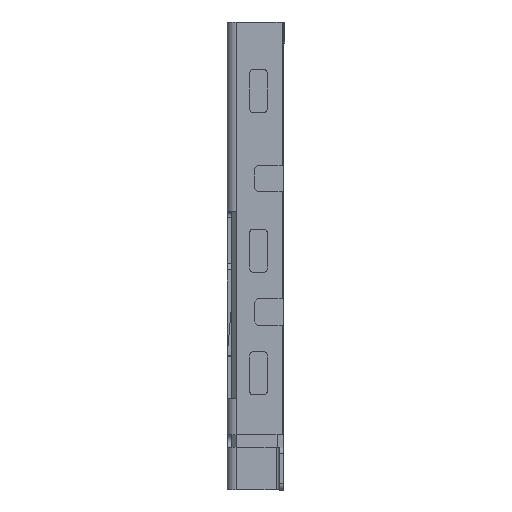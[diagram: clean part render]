
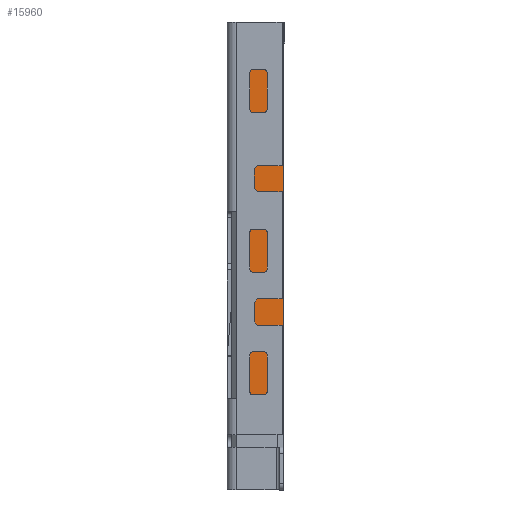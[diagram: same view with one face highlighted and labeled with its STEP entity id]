
A CAD part, left-side view. The second image highlights one B-rep face of the part: STEP entity #15960.
In plain terms, the highlighted planar face has unit normal (-1, 0, 0).
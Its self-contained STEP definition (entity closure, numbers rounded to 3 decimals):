
#52 = EDGE_CURVE ( 'NONE', #10962, #14479, #12126, .T. ) ;
#835 = PLANE ( 'NONE',  #4417 ) ;
#932 = CARTESIAN_POINT ( 'NONE',  ( -6.875, 0.2, -5.825 ) ) ;
#1551 = EDGE_CURVE ( 'NONE', #27229, #25503, #9286, .T. ) ;
#1668 = CARTESIAN_POINT ( 'NONE',  ( -6.875, 1.55, -5.825 ) ) ;
#1908 = FACE_OUTER_BOUND ( 'NONE', #6817, .T. ) ;
#2243 = DIRECTION ( 'NONE',  ( 0., 1., 0. ) ) ;
#2330 = EDGE_CURVE ( 'NONE', #25503, #14479, #22000, .T. ) ;
#3203 = EDGE_CURVE ( 'NONE', #20476, #10962, #4421, .T. ) ;
#4227 = ORIENTED_EDGE ( 'NONE', *, *, #3203, .F. ) ;
#4261 = CARTESIAN_POINT ( 'NONE',  ( -6.875, 1.55, 7.625 ) ) ;
#4417 = AXIS2_PLACEMENT_3D ( 'NONE', #932, #23637, #25916 ) ;
#4421 = LINE ( 'NONE', #18147, #28541 ) ;
#5359 = EDGE_CURVE ( 'NONE', #27229, #8840, #13848, .T. ) ;
#6166 = CARTESIAN_POINT ( 'NONE',  ( -6.875, 0.2, -5.825 ) ) ;
#6817 = EDGE_LOOP ( 'NONE', ( #13791, #15389, #4227, #16029, #12164, #27153 ) ) ;
#8840 = VERTEX_POINT ( 'NONE', #19040 ) ;
#9286 = LINE ( 'NONE', #27070, #20298 ) ;
#9314 = CARTESIAN_POINT ( 'NONE',  ( -6.875, 0.2, -5.575 ) ) ;
#10702 = VECTOR ( 'NONE', #20230, 1000. ) ;
#10962 = VERTEX_POINT ( 'NONE', #9314 ) ;
#12126 = LINE ( 'NONE', #29153, #10702 ) ;
#12164 = ORIENTED_EDGE ( 'NONE', *, *, #5359, .F. ) ;
#13686 = VECTOR ( 'NONE', #24794, 1000. ) ;
#13791 = ORIENTED_EDGE ( 'NONE', *, *, #2330, .T. ) ;
#13848 = LINE ( 'NONE', #26156, #23083 ) ;
#14479 = VERTEX_POINT ( 'NONE', #18952 ) ;
#15389 = ORIENTED_EDGE ( 'NONE', *, *, #52, .F. ) ;
#15849 = DIRECTION ( 'NONE',  ( 0., 0., -1. ) ) ;
#15960 = ADVANCED_FACE ( 'NONE', ( #1908 ), #835, .F. ) ;
#16029 = ORIENTED_EDGE ( 'NONE', *, *, #18918, .F. ) ;
#18147 = CARTESIAN_POINT ( 'NONE',  ( -6.875, 0.2, -5.575 ) ) ;
#18918 = EDGE_CURVE ( 'NONE', #8840, #20476, #21166, .T. ) ;
#18952 = CARTESIAN_POINT ( 'NONE',  ( -6.875, 0.2, -5.825 ) ) ;
#19040 = CARTESIAN_POINT ( 'NONE',  ( -6.875, 0.03, 7.625 ) ) ;
#20230 = DIRECTION ( 'NONE',  ( 0., 0., -1. ) ) ;
#20298 = VECTOR ( 'NONE', #15849, 1000. ) ;
#20476 = VERTEX_POINT ( 'NONE', #22623 ) ;
#21166 = LINE ( 'NONE', #24687, #13686 ) ;
#21246 = DIRECTION ( 'NONE',  ( 0., -1., 0. ) ) ;
#22000 = LINE ( 'NONE', #6166, #24112 ) ;
#22623 = CARTESIAN_POINT ( 'NONE',  ( -6.875, 0.03, -5.575 ) ) ;
#23083 = VECTOR ( 'NONE', #21246, 1000. ) ;
#23637 = DIRECTION ( 'NONE',  ( 1., 0., 0. ) ) ;
#24112 = VECTOR ( 'NONE', #24659, 1000. ) ;
#24659 = DIRECTION ( 'NONE',  ( 0., -1., 0. ) ) ;
#24687 = CARTESIAN_POINT ( 'NONE',  ( -6.875, 0.03, 7.625 ) ) ;
#24794 = DIRECTION ( 'NONE',  ( 0., 0., -1. ) ) ;
#25503 = VERTEX_POINT ( 'NONE', #1668 ) ;
#25916 = DIRECTION ( 'NONE',  ( 0., 0., -1. ) ) ;
#26156 = CARTESIAN_POINT ( 'NONE',  ( -6.875, 0.2, 7.625 ) ) ;
#27070 = CARTESIAN_POINT ( 'NONE',  ( -6.875, 1.55, -5.825 ) ) ;
#27153 = ORIENTED_EDGE ( 'NONE', *, *, #1551, .T. ) ;
#27229 = VERTEX_POINT ( 'NONE', #4261 ) ;
#28541 = VECTOR ( 'NONE', #2243, 1000. ) ;
#29153 = CARTESIAN_POINT ( 'NONE',  ( -6.875, 0.2, -5.575 ) ) ;
